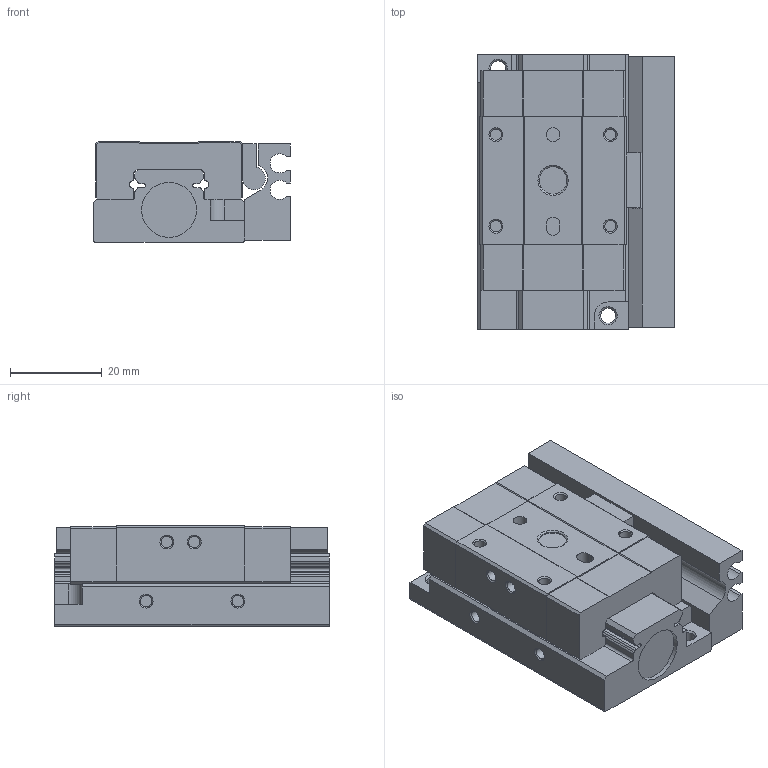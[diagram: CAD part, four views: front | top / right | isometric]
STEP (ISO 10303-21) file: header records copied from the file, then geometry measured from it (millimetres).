
FILE_DESCRIPTION(/* description */ ('STEP AP214'),/* implementation_level */ '2;1');
FILE_NAME(/* name */ 'HGS12X5S(0)',/* time_stamp */ '2024-09-22T10:38:33+02:00',/* author */ ('License CC BY-ND 4.0'),/* organization */ ('CADENAS'),/* preprocessor_version */ 'ST-DEVELOPER v19.3',/* originating_system */ 'PARTsolutions',/* authorisation */ ' ');
FILE_SCHEMA (('AUTOMOTIVE_DESIGN {1 0 10303 214 3 1 1}'));
Length unit declared in the file: millimetre
Products named in the file (5): HGS12X5S(0); HGS12X5S(0)_dummy; HGS12X5S(0)_body; F-HGS12X5H; HGS12X5S(0)_t
Assembly tree (4 placements, depth 2):
  HGS12X5S(0)
    HGS12X5S(0)_dummy
    HGS12X5S(0)_body
    F-HGS12X5H
    HGS12X5S(0)_t
Bounding box: 43 x 60 x 22 mm (x, y, z)
Volume: 44825.2 mm3; surface area: 19630.6 mm2
Topology: 3 solids, 5 shells, 242 faces, 572 edges, 373 vertices
Faces by surface type: plane 144, cylinder 74, cone 24
Full cylindrical faces by diameter (mm): 1 x2, 2.459 x12, 3 x4, 3.242 x2, 3.5 x2, 3.9 x2, 4.134 x4, 5.5 x2, 6 x4, 12 x2
Entity records: 6750 total; most frequent: DIRECTION 1176, CARTESIAN_POINT 1124, ORIENTED_EDGE 1016, EDGE_CURVE 508, AXIS2_PLACEMENT_3D 421, VERTEX_POINT 368, EDGE_LOOP 344, FACE_BOUND 344
